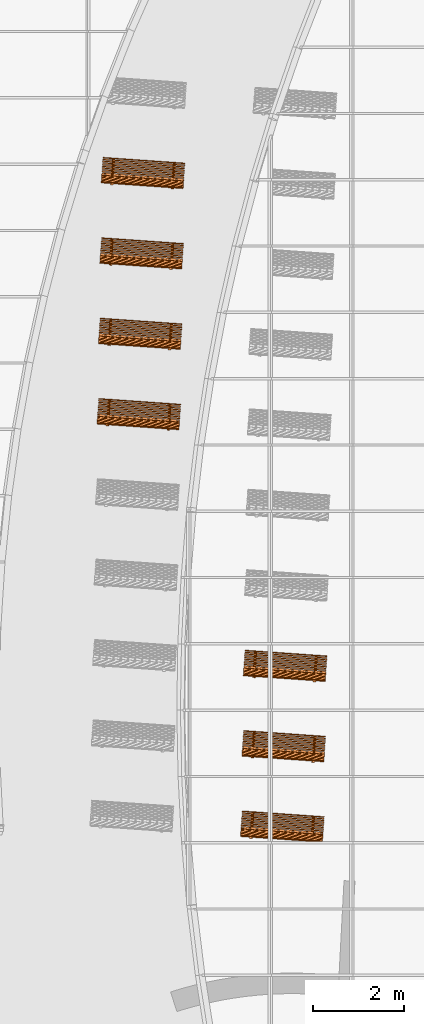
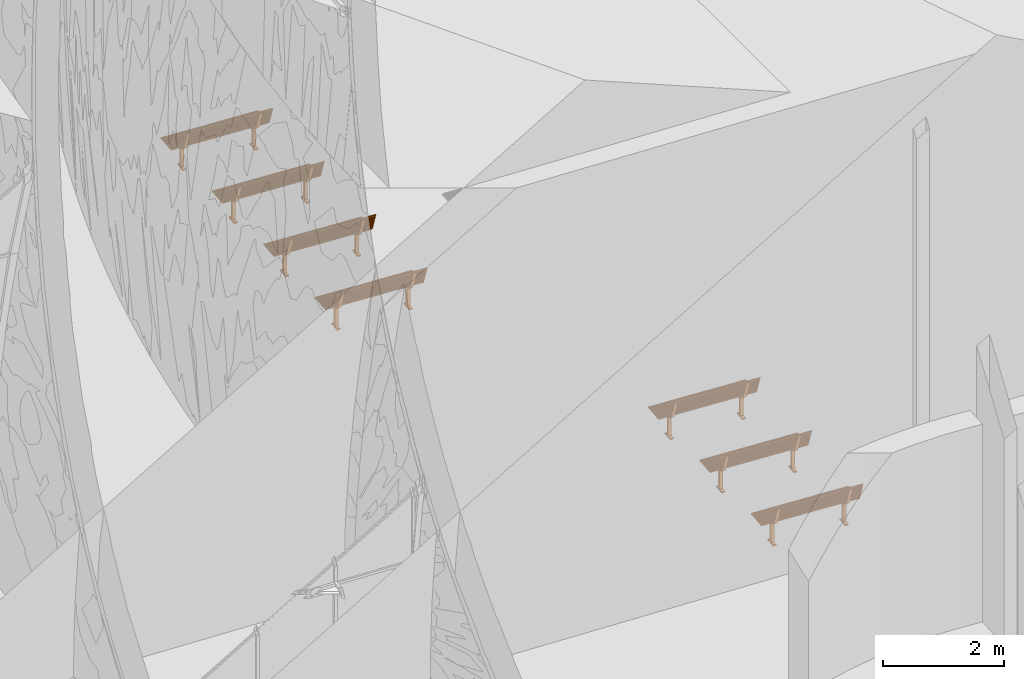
# One storey, part 76 of 82: 7 proxies.
"""IFC2X3 building model written with IfcOpenShell, lengths in millimetres."""

from ifc_helpers import new_model, entity, si_unit, converted_unit, derived_unit, direction, frame, frame_2d, origin, origin_2d_with_axis, place, context, subcontext, project, spatial, polyline, circle_curve, parameter, trimmed, segment, composite_curve, rectangle, outline, extrude, source, transform, mapped, material, material_list, element, save


model = new_model("IFC2X3")

# Units and contexts
model_context = context("Model", 3, precision=0.01, world=origin(), true_north=direction((6.12303176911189e-17, 1.0)))
body_context = subcontext(model_context, "Body", "Model", "MODEL_VIEW")
ifc_project = project(units=[si_unit("LENGTHUNIT", "METRE", prefix="MILLI"), si_unit("AREAUNIT", "SQUARE_METRE"), si_unit("VOLUMEUNIT", "CUBIC_METRE"), converted_unit("PLANEANGLEUNIT", "DEGREE", entity("IfcRatioMeasure", 0.0174532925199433), si_unit("PLANEANGLEUNIT", "RADIAN"), dimensions=[0, 0, 0, 0, 0, 0, 0]), si_unit("MASSUNIT", "GRAM", prefix="KILO"), derived_unit("MASSDENSITYUNIT", [(si_unit("MASSUNIT", "GRAM", prefix="KILO"), 1), (si_unit("LENGTHUNIT", "METRE"), -3)]), si_unit("TIMEUNIT", "SECOND"), si_unit("FREQUENCYUNIT", "HERTZ"), si_unit("THERMODYNAMICTEMPERATUREUNIT", "DEGREE_CELSIUS"), derived_unit("THERMALTRANSMITTANCEUNIT", [(si_unit("MASSUNIT", "GRAM", prefix="KILO"), 1), (si_unit("THERMODYNAMICTEMPERATUREUNIT", "KELVIN"), -1), (si_unit("TIMEUNIT", "SECOND"), -3)]), derived_unit("VOLUMETRICFLOWRATEUNIT", [(si_unit("LENGTHUNIT", "METRE"), 3), (si_unit("TIMEUNIT", "SECOND"), -1)]), si_unit("ELECTRICCURRENTUNIT", "AMPERE"), si_unit("ELECTRICVOLTAGEUNIT", "VOLT"), si_unit("POWERUNIT", "WATT"), si_unit("FORCEUNIT", "NEWTON", prefix="KILO"), si_unit("ILLUMINANCEUNIT", "LUX"), si_unit("LUMINOUSFLUXUNIT", "LUMEN"), si_unit("LUMINOUSINTENSITYUNIT", "CANDELA"), derived_unit("USERDEFINED", [(si_unit("MASSUNIT", "GRAM", prefix="KILO"), -1), (si_unit("LENGTHUNIT", "METRE"), -2), (si_unit("TIMEUNIT", "SECOND"), 3), (si_unit("LUMINOUSFLUXUNIT", "LUMEN"), 1)]), derived_unit("LINEARVELOCITYUNIT", [(si_unit("LENGTHUNIT", "METRE"), 1), (si_unit("TIMEUNIT", "SECOND"), -1)]), si_unit("PRESSUREUNIT", "PASCAL"), derived_unit("USERDEFINED", [(si_unit("LENGTHUNIT", "METRE"), -2), (si_unit("MASSUNIT", "GRAM", prefix="KILO"), 1), (si_unit("TIMEUNIT", "SECOND"), -2)])], contexts=[model_context])

# Site, building, storey
site_placement = place(None, origin())
site = spatial("IfcSite", under=ifc_project, at=site_placement, Name="表面", CompositionType="ELEMENT")
building_placement = place(site_placement, origin())
building = spatial("IfcBuilding", under=site, at=building_placement, CompositionType="ELEMENT")
storey_placement = place(building_placement, origin())
storey = spatial("IfcBuildingStorey", under=building, at=storey_placement, Name="1F", CompositionType="ELEMENT", Elevation=0.0)

# Proxies
ifc_material_1 = material(Name="木质 - 柚木")
ifc_material_2 = material(Name="金属 - 油漆面层 - 深灰色，粗面")
ifc_material_list_1 = material_list([ifc_material_1, ifc_material_2])
shared_shape = source(origin(), body_context, "Body", "SweptSolid", [
    extrude(outline(composite_curve([segment(polyline([(5.21607142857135, -0.797293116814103), (17.9160714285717, -0.797293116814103)]), True, "CONTINUOUS"), segment(polyline([(17.9160714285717, -0.797293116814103), (17.9160714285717, 13.3364172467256)]), True, "CONTINUOUS"), segment(polyline([(17.9160714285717, 13.3364172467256), (-5.89642857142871, 13.3364172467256)]), True, "CONTINUOUS"), segment(trimmed(circle_curve(frame_2d((-5.89642857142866, -0.95108275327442), x_axis=(0.0, -1.0)), 14.2875), [parameter(180.000000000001)], [parameter(270.0)], True, "PARAMETER"), True, "CONTINUOUS"), segment(polyline([(-20.1839285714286, -0.95108275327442), (-20.1839285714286, -12.0635827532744)]), True, "CONTINUOUS"), segment(polyline([(-20.1839285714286, -12.0635827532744), (5.21607142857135, -12.0635827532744)]), True, "CONTINUOUS"), segment(polyline([(5.21607142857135, -12.0635827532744), (5.21607142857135, -0.797293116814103)]), True, "CONTINUOUS")], self_intersect=False)), frame((-900.0, 305.597293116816, 462.416071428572), z_axis=(1.0, 0.0, 0.0), x_axis=(0.0, 0.0, -1.0)), (0.0, 0.0, 1.0), 1800.0),
    extrude(outline(composite_curve([segment(polyline([(-17.7799999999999, -12.6999999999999), (20.3200000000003, -12.6999999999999)]), True, "CONTINUOUS"), segment(polyline([(20.3200000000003, -12.6999999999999), (20.3199999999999, 12.7000000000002)]), True, "CONTINUOUS"), segment(polyline([(20.3199999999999, 12.7000000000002), (-5.08000000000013, 12.7)]), True, "CONTINUOUS"), segment(trimmed(circle_curve(frame_2d((-5.08000000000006, 0.0), x_axis=(-0.342020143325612, -0.939692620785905)), 12.7), [parameter(200.0)], [parameter(290.000000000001)], True, "PARAMETER"), True, "CONTINUOUS"), segment(polyline([(-17.7800000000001, 0.0), (-17.7799999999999, -12.6999999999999)]), True, "CONTINUOUS")], self_intersect=False)), frame((-900.0, -231.374580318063, 850.885044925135), z_axis=(1.0, 0.0, 0.0), x_axis=(0.0, 0.342020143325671, -0.939692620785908)), (0.0, 0.0, 1.0), 1800.0),
    extrude(rectangle(XDim=25.4, YDim=1800.0, at=frame_2d((-1.68753899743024e-14, 0.0), x_axis=(1.0, 0.0))), frame((0.0, 268.133710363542, 457.2), z_axis=(0.0, 0.0, 1.0), x_axis=(0.0, 1.0, 0.0)), (0.0, 0.0, 1.0), 25.4),
    extrude(rectangle(XDim=25.4, YDim=1800.0, at=frame_2d((-1.68753899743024e-14, 0.0), x_axis=(1.0, 0.0))), frame((0.0, 230.033710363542, 457.2), z_axis=(0.0, 0.0, 1.0), x_axis=(0.0, 1.0, 0.0)), (0.0, 0.0, 1.0), 25.4),
    extrude(rectangle(XDim=25.4, YDim=1800.0, at=frame_2d((-1.68753899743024e-14, 0.0), x_axis=(1.0, 0.0))), frame((0.0, 191.933710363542, 457.2), z_axis=(0.0, 0.0, 1.0), x_axis=(0.0, 1.0, 0.0)), (0.0, 0.0, 1.0), 25.4),
    extrude(rectangle(XDim=25.4, YDim=1800.0, at=frame_2d((-1.68753899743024e-14, 0.0), x_axis=(1.0, 0.0))), frame((0.0, 153.833710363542, 457.2), z_axis=(0.0, 0.0, 1.0), x_axis=(0.0, 1.0, 0.0)), (0.0, 0.0, 1.0), 25.4),
    extrude(rectangle(XDim=25.4, YDim=1800.0, at=origin_2d_with_axis()), frame((0.0, 115.733710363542, 457.2), z_axis=(0.0, 0.0, 1.0), x_axis=(0.0, 1.0, 0.0)), (0.0, 0.0, 1.0), 25.4),
    extrude(rectangle(XDim=25.4, YDim=1800.0, at=origin_2d_with_axis()), frame((0.0, 77.6337103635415, 457.2), z_axis=(0.0, 0.0, 1.0), x_axis=(0.0, 1.0, 0.0)), (0.0, 0.0, 1.0), 25.4),
    extrude(rectangle(XDim=25.4, YDim=1800.0, at=origin_2d_with_axis()), frame((0.0, 39.5337103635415, 457.2), z_axis=(0.0, 0.0, 1.0), x_axis=(0.0, 1.0, 0.0)), (0.0, 0.0, 1.0), 25.4),
    extrude(rectangle(XDim=25.4, YDim=1800.0, at=origin_2d_with_axis()), frame((0.0, 1.43371036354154, 457.2), z_axis=(0.0, 0.0, 1.0), x_axis=(0.0, 1.0, 0.0)), (0.0, 0.0, 1.0), 25.4),
    extrude(rectangle(XDim=25.4, YDim=1800.0, at=origin_2d_with_axis()), frame((0.0, -36.6662896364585, 457.2), z_axis=(0.0, 0.0, 1.0), x_axis=(0.0, 1.0, 0.0)), (0.0, 0.0, 1.0), 25.4),
    extrude(rectangle(XDim=25.4, YDim=25.4, at=frame_2d((-1.33226762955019e-13, 3.01980662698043e-14), x_axis=(1.0, 0.0))), frame((-900.0, -137.551614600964, 593.108565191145), z_axis=(1.0, 0.0, 0.0), x_axis=(0.0, 0.342020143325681, -0.939692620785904)), (0.0, 0.0, 1.0), 1800.0),
    extrude(rectangle(XDim=25.4, YDim=25.4000000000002, at=frame_2d((3.99680288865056e-14, -8.61533067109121e-14), x_axis=(1.0, 0.0))), frame((-900.0, -150.582582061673, 628.910854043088), z_axis=(1.0, 0.0, 0.0), x_axis=(0.0, 0.342020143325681, -0.939692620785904)), (0.0, 0.0, 1.0), 1800.0),
    extrude(rectangle(XDim=25.4000000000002, YDim=25.4, at=frame_2d((-1.06581410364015e-14, -3.19744231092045e-14), x_axis=(1.0, 0.0))), frame((-900.0, -111.489679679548, 521.503987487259), z_axis=(1.0, 0.0, 0.0), x_axis=(0.0, 0.342020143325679, -0.939692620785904)), (0.0, 0.0, 1.0), 1800.0),
    extrude(rectangle(XDim=25.4, YDim=25.3999999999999, at=origin_2d_with_axis()), frame((-900.0, -124.520647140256, 557.306276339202), z_axis=(1.0, 0.0, 0.0), x_axis=(0.0, 0.342020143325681, -0.939692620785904)), (0.0, 0.0, 1.0), 1800.0),
    extrude(rectangle(XDim=25.3999999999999, YDim=25.4, at=frame_2d((-1.06581410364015e-14, -3.10862446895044e-14), x_axis=(1.0, 0.0))), frame((-900.0, -189.675484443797, 736.317720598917), z_axis=(1.0, 0.0, 0.0), x_axis=(0.0, 0.342020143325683, -0.939692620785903)), (0.0, 0.0, 1.0), 1800.0),
    extrude(rectangle(XDim=25.3999999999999, YDim=25.4000000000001, at=frame_2d((-1.33226762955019e-14, -3.19744231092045e-14), x_axis=(1.0, 0.0))), frame((-900.0, -202.706451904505, 772.12000945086), z_axis=(1.0, 0.0, 0.0), x_axis=(0.0, 0.342020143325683, -0.939692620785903)), (0.0, 0.0, 1.0), 1800.0),
    extrude(rectangle(XDim=25.4, YDim=25.3999999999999, at=origin_2d_with_axis()), frame((-900.0, -163.613549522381, 664.713142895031), z_axis=(1.0, 0.0, 0.0), x_axis=(0.0, 0.342020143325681, -0.939692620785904)), (0.0, 0.0, 1.0), 1800.0),
    extrude(rectangle(XDim=25.4, YDim=25.4, at=frame_2d((5.15143483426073e-14, -5.32907051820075e-14), x_axis=(1.0, 0.0))), frame((-900.0, -176.644516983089, 700.515431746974), z_axis=(1.0, 0.0, 0.0), x_axis=(0.0, 0.342020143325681, -0.939692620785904)), (0.0, 0.0, 1.0), 1800.0),
    extrude(rectangle(XDim=25.4, YDim=25.3999999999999, at=frame_2d((1.24344978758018e-14, 3.19744231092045e-14), x_axis=(1.0, 0.0))), frame((-900.0, -215.737419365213, 807.922298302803), z_axis=(1.0, 0.0, 0.0), x_axis=(0.0, 0.342020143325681, -0.939692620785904)), (0.0, 0.0, 1.0), 1800.0),
    extrude(rectangle(XDim=25.4000000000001, YDim=25.3999999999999, at=frame_2d((-9.76996261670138e-15, -1.4210854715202e-14), x_axis=(1.0, 0.0))), frame((-900.0, -96.4732295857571, 493.845543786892), z_axis=(1.0, 0.0, 0.0), x_axis=(0.0, 0.573576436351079, -0.819152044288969)), (0.0, 0.0, 1.0), 1800.0),
    extrude(rectangle(XDim=25.4, YDim=25.4000000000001, at=frame_2d((5.24025267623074e-14, -1.25233157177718e-13), x_axis=(0.0, 1.0))), frame((-900.0, -68.061957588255, 472.784050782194), z_axis=(1.0, 0.0, 0.0), x_axis=(0.0, 0.965925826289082, -0.258819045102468)), (0.0, 0.0, 1.0), 1800.0),
    extrude(outline(composite_curve([segment(polyline([(-133.451056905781, -344.97581690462), (-133.451056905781, -370.37581690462)]), True, "CONTINUOUS"), segment(polyline([(-133.451056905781, -370.37581690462), (69.7489430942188, -370.37581690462)]), True, "CONTINUOUS"), segment(polyline([(69.7489430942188, -370.37581690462), (69.7489430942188, -344.97581690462)]), True, "CONTINUOUS"), segment(polyline([(69.7489430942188, -344.97581690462), (-6.45105690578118, -344.97581690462)]), True, "CONTINUOUS"), segment(polyline([(-6.45105690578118, -344.97581690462), (-6.45105690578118, 61.4241830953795)]), True, "CONTINUOUS"), segment(polyline([(-6.45105690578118, 61.4241830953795), (25.2857644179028, 61.4241830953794)]), True, "CONTINUOUS"), segment(trimmed(circle_curve(frame_2d((25.2857644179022, 150.324183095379), x_axis=(1.0, 0.0)), 88.8999999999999), [parameter(270.0)], [parameter(340.0)], True, "PARAMETER"), True, "CONTINUOUS"), segment(polyline([(108.824438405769, 119.918592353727), (241.301433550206, 483.896145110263)]), True, "CONTINUOUS"), segment(polyline([(241.301433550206, 483.896145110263), (229.367337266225, 488.239800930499)]), True, "CONTINUOUS"), segment(trimmed(circle_curve(frame_2d((225.023681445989, 476.305704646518), x_axis=(1.0, 0.0)), 12.7), [parameter(69.9999999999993)], [parameter(160.0)], True, "PARAMETER"), True, "CONTINUOUS"), segment(polyline([(213.089585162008, 480.649360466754), (84.9562458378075, 128.6059039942)]), True, "CONTINUOUS"), segment(trimmed(circle_curve(frame_2d((25.2857644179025, 150.32418309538), x_axis=(1.0, 0.0)), 63.5), [parameter(270.0)], [parameter(340.0)], True, "PARAMETER"), False, "CONTINUOUS"), segment(polyline([(25.2857644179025, 86.8241830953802), (-336.651056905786, 86.8241830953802)]), True, "CONTINUOUS"), segment(polyline([(-336.651056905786, 86.8241830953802), (-336.651056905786, 61.4241830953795)]), True, "CONTINUOUS"), segment(polyline([(-336.651056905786, 61.4241830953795), (-57.2510569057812, 61.4241830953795)]), True, "CONTINUOUS"), segment(polyline([(-57.2510569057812, 61.4241830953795), (-57.2510569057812, -344.97581690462)]), True, "CONTINUOUS"), segment(polyline([(-57.2510569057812, -344.97581690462), (-133.451056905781, -344.97581690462)]), True, "CONTINUOUS")], self_intersect=False)), frame((633.973659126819, -31.8510569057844, 370.37581690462), z_axis=(-1.0, 0.0, 0.0), x_axis=(0.0, -1.0, 0.0)), (0.0, 0.0, -1.0), 62.8263408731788),
    extrude(outline(composite_curve([segment(polyline([(-133.451056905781, -344.97581690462), (-133.451056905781, -370.37581690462)]), True, "CONTINUOUS"), segment(polyline([(-133.451056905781, -370.37581690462), (69.7489430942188, -370.37581690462)]), True, "CONTINUOUS"), segment(polyline([(69.7489430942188, -370.37581690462), (69.7489430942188, -344.97581690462)]), True, "CONTINUOUS"), segment(polyline([(69.7489430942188, -344.97581690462), (-6.45105690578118, -344.97581690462)]), True, "CONTINUOUS"), segment(polyline([(-6.45105690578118, -344.97581690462), (-6.45105690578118, 61.4241830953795)]), True, "CONTINUOUS"), segment(polyline([(-6.45105690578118, 61.4241830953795), (25.2857644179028, 61.4241830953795)]), True, "CONTINUOUS"), segment(trimmed(circle_curve(frame_2d((25.2857644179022, 150.32418309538), x_axis=(1.0, 0.0)), 88.9), [parameter(270.0)], [parameter(340.0)], True, "PARAMETER"), True, "CONTINUOUS"), segment(polyline([(108.824438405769, 119.918592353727), (241.301433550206, 483.896145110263)]), True, "CONTINUOUS"), segment(polyline([(241.301433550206, 483.896145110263), (229.367337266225, 488.239800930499)]), True, "CONTINUOUS"), segment(trimmed(circle_curve(frame_2d((225.023681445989, 476.305704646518), x_axis=(1.0, 0.0)), 12.7), [parameter(69.9999999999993)], [parameter(160.0)], True, "PARAMETER"), True, "CONTINUOUS"), segment(polyline([(213.089585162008, 480.649360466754), (84.9562458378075, 128.6059039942)]), True, "CONTINUOUS"), segment(trimmed(circle_curve(frame_2d((25.2857644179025, 150.32418309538), x_axis=(1.0, 0.0)), 63.5), [parameter(270.0)], [parameter(340.0)], True, "PARAMETER"), False, "CONTINUOUS"), segment(polyline([(25.2857644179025, 86.8241830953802), (-336.651056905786, 86.8241830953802)]), True, "CONTINUOUS"), segment(polyline([(-336.651056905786, 86.8241830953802), (-336.651056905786, 61.4241830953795)]), True, "CONTINUOUS"), segment(polyline([(-336.651056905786, 61.4241830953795), (-57.2510569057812, 61.4241830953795)]), True, "CONTINUOUS"), segment(polyline([(-57.2510569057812, 61.4241830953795), (-57.2510569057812, -344.97581690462)]), True, "CONTINUOUS"), segment(polyline([(-57.2510569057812, -344.97581690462), (-133.451056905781, -344.97581690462)]), True, "CONTINUOUS")], self_intersect=False)), frame((-696.799999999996, -31.8510569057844, 370.37581690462), z_axis=(-1.0, 0.0, 0.0), x_axis=(0.0, -1.0, 0.0)), (0.0, 0.0, -1.0), 63.8916859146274),
])
proxy_1_placement = place(storey_placement, frame((-28560.8694265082, -20320.0029592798, 0.0), z_axis=(0.0, 0.0, 1.0), x_axis=(0.997564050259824, -0.0697564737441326, 0.0)))
element("IfcBuildingElementProxy", 1, at=proxy_1_placement, inside=storey, material=ifc_material_list_1, Name="长椅:1800 mm", ObjectType="1800 mm", context=body_context, shape_type="MappedRepresentation", body=[
    mapped(shared_shape, transform((0.0, 0.0, 0.0), scale=1.0)),
])
ifc_material_list_2 = material_list([ifc_material_1, ifc_material_2])
proxy_2_placement = place(storey_placement, frame((-31607.3190721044, -6024.44956226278, 0.0), z_axis=(0.0, 0.0, 1.0), x_axis=(0.997564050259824, -0.0697564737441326, 0.0)))
element("IfcBuildingElementProxy", 2, at=proxy_2_placement, inside=storey, material=ifc_material_list_2, Name="长椅:1800 mm", ObjectType="1800 mm", context=body_context, shape_type="MappedRepresentation", body=[
    mapped(shared_shape, transform((0.0, 0.0, 0.0), scale=1.0)),
])
ifc_material_list_3 = material_list([ifc_material_1, ifc_material_2])
proxy_3_placement = place(storey_placement, frame((-31638.0080371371, -7782.61919147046, 0.0), z_axis=(0.0, 0.0, 1.0), x_axis=(0.997564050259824, -0.0697564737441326, 0.0)))
element("IfcBuildingElementProxy", 3, at=proxy_3_placement, inside=storey, material=ifc_material_list_3, Name="长椅:1800 mm", ObjectType="1800 mm", context=body_context, shape_type="MappedRepresentation", body=[
    mapped(shared_shape, transform((0.0, 0.0, 0.0), scale=1.0)),
])
ifc_material_list_4 = material_list([ifc_material_1, ifc_material_2])
proxy_4_placement = place(storey_placement, frame((-31668.6970021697, -9540.78882067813, 0.0), z_axis=(0.0, 0.0, 1.0), x_axis=(0.997564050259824, -0.0697564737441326, 0.0)))
element("IfcBuildingElementProxy", 4, at=proxy_4_placement, inside=storey, material=ifc_material_list_4, Name="长椅:1800 mm", ObjectType="1800 mm", context=body_context, shape_type="MappedRepresentation", body=[
    mapped(shared_shape, transform((0.0, 0.0, 0.0), scale=1.0)),
])
ifc_material_list_5 = material_list([ifc_material_1, ifc_material_2])
proxy_5_placement = place(storey_placement, frame((-31699.3859672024, -11298.9584498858, 0.0), z_axis=(0.0, 0.0, 1.0), x_axis=(0.997564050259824, -0.0697564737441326, 0.0)))
element("IfcBuildingElementProxy", 5, at=proxy_5_placement, inside=storey, material=ifc_material_list_5, Name="长椅:1800 mm", ObjectType="1800 mm", context=body_context, shape_type="MappedRepresentation", body=[
    mapped(shared_shape, transform((0.0, 0.0, 0.0), scale=1.0)),
])
ifc_material_list_6 = material_list([ifc_material_1, ifc_material_2])
proxy_6_placement = place(storey_placement, frame((-28499.4914964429, -16803.6637008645, 0.0), z_axis=(0.0, 0.0, 1.0), x_axis=(0.997564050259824, -0.0697564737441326, 0.0)))
element("IfcBuildingElementProxy", 6, at=proxy_6_placement, inside=storey, material=ifc_material_list_6, Name="长椅:1800 mm", ObjectType="1800 mm", context=body_context, shape_type="MappedRepresentation", body=[
    mapped(shared_shape, transform((0.0, 0.0, 0.0), scale=1.0)),
])
ifc_material_list_7 = material_list([ifc_material_1, ifc_material_2])
proxy_7_placement = place(storey_placement, frame((-28530.1804614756, -18561.8333300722, 0.0), z_axis=(0.0, 0.0, 1.0), x_axis=(0.997564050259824, -0.0697564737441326, 0.0)))
element("IfcBuildingElementProxy", 7, at=proxy_7_placement, inside=storey, material=ifc_material_list_7, Name="长椅:1800 mm", ObjectType="1800 mm", context=body_context, shape_type="MappedRepresentation", body=[
    mapped(shared_shape, transform((0.0, 0.0, 0.0), scale=1.0)),
])

save(model, "model.ifc")
